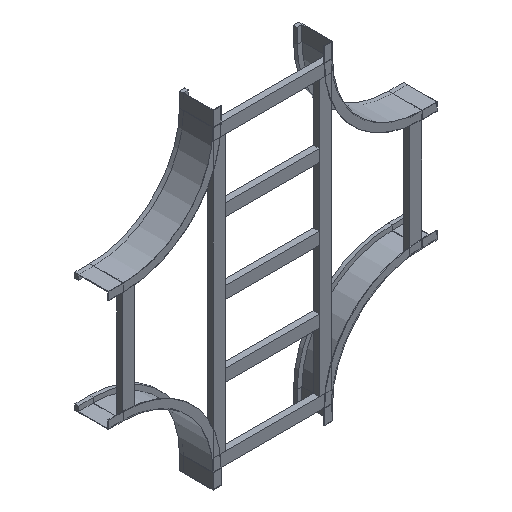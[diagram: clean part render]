
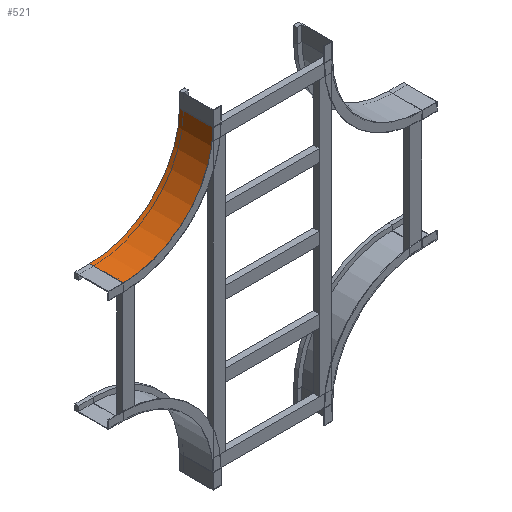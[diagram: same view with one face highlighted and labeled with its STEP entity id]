
A CAD part, isometric view. The second image highlights one B-rep face of the part: STEP entity #521.
In plain terms, the highlighted cylindrical face has radius 300 mm (diameter 600 mm), a partial arc.
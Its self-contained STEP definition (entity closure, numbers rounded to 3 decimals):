
#49 = ORIENTED_EDGE ( 'NONE', *, *, #987, .T. ) ;
#143 = EDGE_CURVE ( 'NONE', #424, #397, #252, .T. ) ;
#150 = CARTESIAN_POINT ( 'NONE',  ( 0., 0., -50. ) ) ;
#247 = ORIENTED_EDGE ( 'NONE', *, *, #763, .F. ) ;
#252 = LINE ( 'NONE', #456, #281 ) ;
#281 = VECTOR ( 'NONE', #547, 1000. ) ;
#290 = CIRCLE ( 'NONE', #1087, 300. ) ;
#311 = DIRECTION ( 'NONE',  ( -1., 0., 0. ) ) ;
#336 = CYLINDRICAL_SURFACE ( 'NONE', #1177, 300. ) ;
#377 = EDGE_CURVE ( 'NONE', #1201, #964, #954, .T. ) ;
#397 = VERTEX_POINT ( 'NONE', #835 ) ;
#424 = VERTEX_POINT ( 'NONE', #1368 ) ;
#456 = CARTESIAN_POINT ( 'NONE',  ( 300., 0., -350. ) ) ;
#462 = ORIENTED_EDGE ( 'NONE', *, *, #377, .F. ) ;
#467 = DIRECTION ( 'NONE',  ( 0., -1., 0. ) ) ;
#511 = DIRECTION ( 'NONE',  ( 0., 1., 0. ) ) ;
#521 = ADVANCED_FACE ( 'NONE', ( #580 ), #336, .F. ) ;
#546 = CARTESIAN_POINT ( 'NONE',  ( 0., 112.5, -50. ) ) ;
#547 = DIRECTION ( 'NONE',  ( 0., 1., 0. ) ) ;
#576 = CARTESIAN_POINT ( 'NONE',  ( 300., 0., -50. ) ) ;
#580 = FACE_OUTER_BOUND ( 'NONE', #851, .T. ) ;
#691 = DIRECTION ( 'NONE',  ( -1., 0., 0. ) ) ;
#763 = EDGE_CURVE ( 'NONE', #964, #397, #290, .T. ) ;
#782 = VECTOR ( 'NONE', #511, 1000. ) ;
#790 = DIRECTION ( 'NONE',  ( 0., -1., 0. ) ) ;
#835 = CARTESIAN_POINT ( 'NONE',  ( 300., 112.5, -350. ) ) ;
#851 = EDGE_LOOP ( 'NONE', ( #247, #462, #49, #1259 ) ) ;
#878 = CARTESIAN_POINT ( 'NONE',  ( 300., 112.5, -50. ) ) ;
#954 = LINE ( 'NONE', #1073, #782 ) ;
#964 = VERTEX_POINT ( 'NONE', #546 ) ;
#987 = EDGE_CURVE ( 'NONE', #1201, #424, #998, .T. ) ;
#998 = CIRCLE ( 'NONE', #1377, 300. ) ;
#1001 = DIRECTION ( 'NONE',  ( 0., 0., -1. ) ) ;
#1048 = DIRECTION ( 'NONE',  ( 0., -1., 0. ) ) ;
#1073 = CARTESIAN_POINT ( 'NONE',  ( 0., 0., -50. ) ) ;
#1087 = AXIS2_PLACEMENT_3D ( 'NONE', #878, #467, #691 ) ;
#1177 = AXIS2_PLACEMENT_3D ( 'NONE', #576, #790, #1001 ) ;
#1201 = VERTEX_POINT ( 'NONE', #150 ) ;
#1259 = ORIENTED_EDGE ( 'NONE', *, *, #143, .T. ) ;
#1279 = CARTESIAN_POINT ( 'NONE',  ( 300., 0., -50. ) ) ;
#1368 = CARTESIAN_POINT ( 'NONE',  ( 300., 0., -350. ) ) ;
#1377 = AXIS2_PLACEMENT_3D ( 'NONE', #1279, #1048, #311 ) ;
